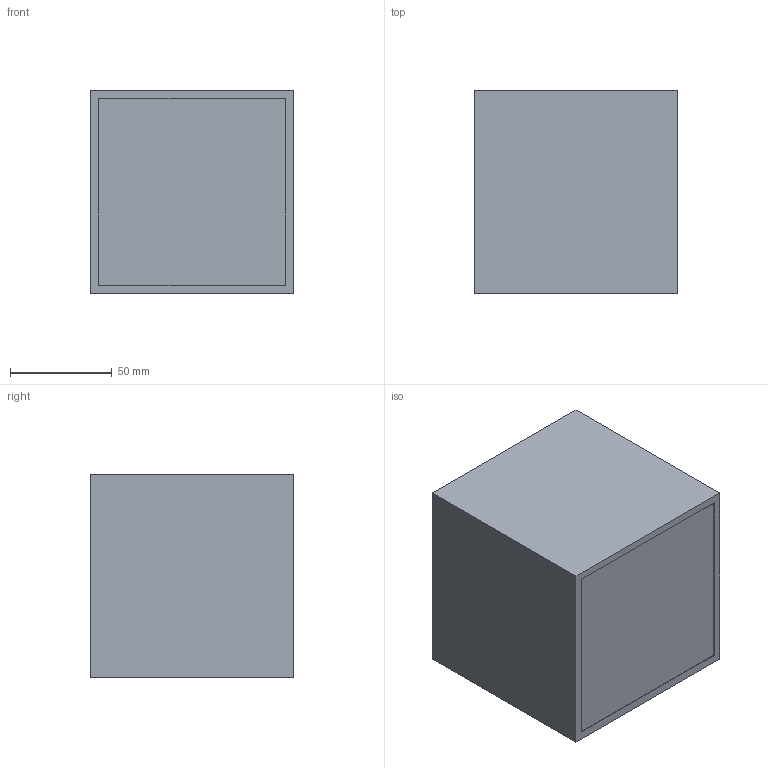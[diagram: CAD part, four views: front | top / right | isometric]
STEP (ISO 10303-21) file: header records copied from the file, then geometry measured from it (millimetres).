
FILE_DESCRIPTION (( 'STEP AP214' ), '1' );
FILE_NAME ('BOX SMALL 3D MODEL.STEP', '2016-10-20T12:08:18', ( 'Utente' ), ( '' ), 'SwSTEP 2.0', 'SolidWorks 2016', '' );
FILE_SCHEMA (( 'AUTOMOTIVE_DESIGN' ));
Length unit declared in the file: millimetre
Products named in the file (1): BOX SMALL 3D MODEL
Bounding box: 100 x 100 x 100 mm (x, y, z)
Volume: 180775.8 mm3; surface area: 95657.2 mm2
Topology: 1 solids, 1 shells, 16 faces, 36 edges, 24 vertices
Faces by surface type: plane 16
Entity records: 650 total; most frequent: CARTESIAN_POINT 77, ORIENTED_EDGE 72, DIRECTION 70, EDGE_CURVE 36, LINE 36, VECTOR 36, VERTEX_POINT 24, UNCERTAINTY_MEASURE_WITH_UNIT 19
